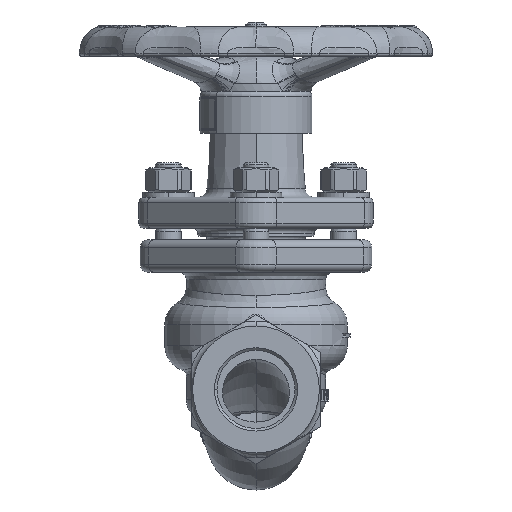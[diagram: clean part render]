
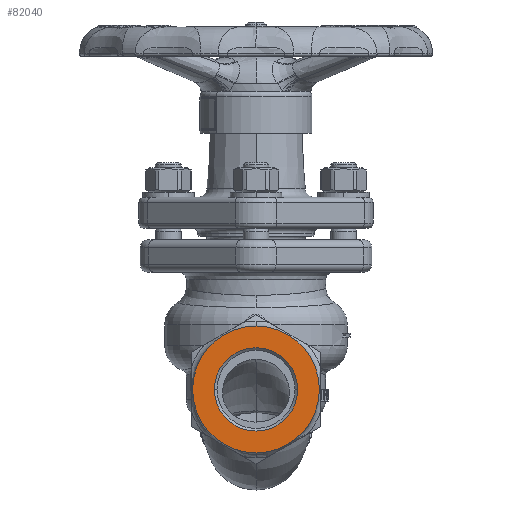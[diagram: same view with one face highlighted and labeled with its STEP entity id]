
A CAD part, left-side view. The second image highlights one B-rep face of the part: STEP entity #82040.
In plain terms, the highlighted planar face has unit normal (-1, 0, 0).
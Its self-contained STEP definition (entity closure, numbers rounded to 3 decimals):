
#15839=CARTESIAN_POINT('',(-67.5,0.,0.));
#15840=DIRECTION('',(1.,0.,0.));
#15841=DIRECTION('',(0.,-1.,0.));
#15842=AXIS2_PLACEMENT_3D('',#15839,#15840,#15841);
#15844=CARTESIAN_POINT('',(-67.5,0.,0.));
#15845=DIRECTION('',(1.,0.,0.));
#15846=DIRECTION('',(0.,1.,0.));
#15847=AXIS2_PLACEMENT_3D('',#15844,#15845,#15846);
#15849=CARTESIAN_POINT('',(-67.5,0.,0.));
#15850=DIRECTION('',(-1.,0.,0.));
#15851=DIRECTION('',(0.,0.,-1.));
#15852=AXIS2_PLACEMENT_3D('',#15849,#15850,#15851);
#15931=CARTESIAN_POINT('',(-67.5,0.,0.));
#15932=DIRECTION('',(-1.,0.,0.));
#15933=DIRECTION('',(0.,0.,1.));
#15934=AXIS2_PLACEMENT_3D('',#15931,#15932,#15933);
#35514=CARTESIAN_POINT('',(-67.5,0.,-24.583));
#35515=CARTESIAN_POINT('',(-67.5,0.,24.583));
#35516=VERTEX_POINT('',#35514);
#35517=VERTEX_POINT('',#35515);
#35544=CARTESIAN_POINT('',(-67.5,-16.146,0.));
#35545=CARTESIAN_POINT('',(-67.5,16.146,0.));
#35546=VERTEX_POINT('',#35544);
#35547=VERTEX_POINT('',#35545);
#82024=CARTESIAN_POINT('',(-67.5,0.,0.));
#82025=DIRECTION('',(-1.,0.,0.));
#82026=DIRECTION('',(0.,0.,1.));
#82027=AXIS2_PLACEMENT_3D('',#82024,#82025,#82026);
#82028=PLANE('',#82027);
#82030=ORIENTED_EDGE('',*,*,#82029,.F.);
#82032=ORIENTED_EDGE('',*,*,#82031,.F.);
#82033=EDGE_LOOP('',(#82030,#82032));
#82034=FACE_OUTER_BOUND('',#82033,.F.);
#82035=ORIENTED_EDGE('',*,*,#82014,.F.);
#82037=ORIENTED_EDGE('',*,*,#82036,.F.);
#82038=EDGE_LOOP('',(#82035,#82037));
#82039=FACE_BOUND('',#82038,.F.);
#82040=ADVANCED_FACE('',(#82034,#82039),#82028,.T.);
#15843=CIRCLE('',#15842,16.146);
#15848=CIRCLE('',#15847,16.146);
#15853=CIRCLE('',#15852,24.583);
#15935=CIRCLE('',#15934,24.583);
#82014=EDGE_CURVE('',#35546,#35547,#15843,.T.);
#82029=EDGE_CURVE('',#35516,#35517,#15853,.T.);
#82031=EDGE_CURVE('',#35517,#35516,#15935,.T.);
#82036=EDGE_CURVE('',#35547,#35546,#15848,.T.);
